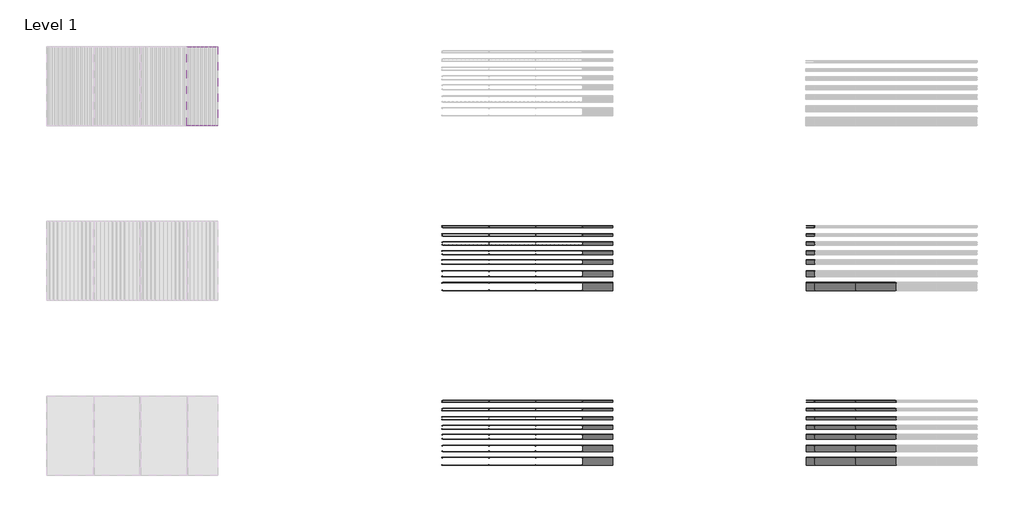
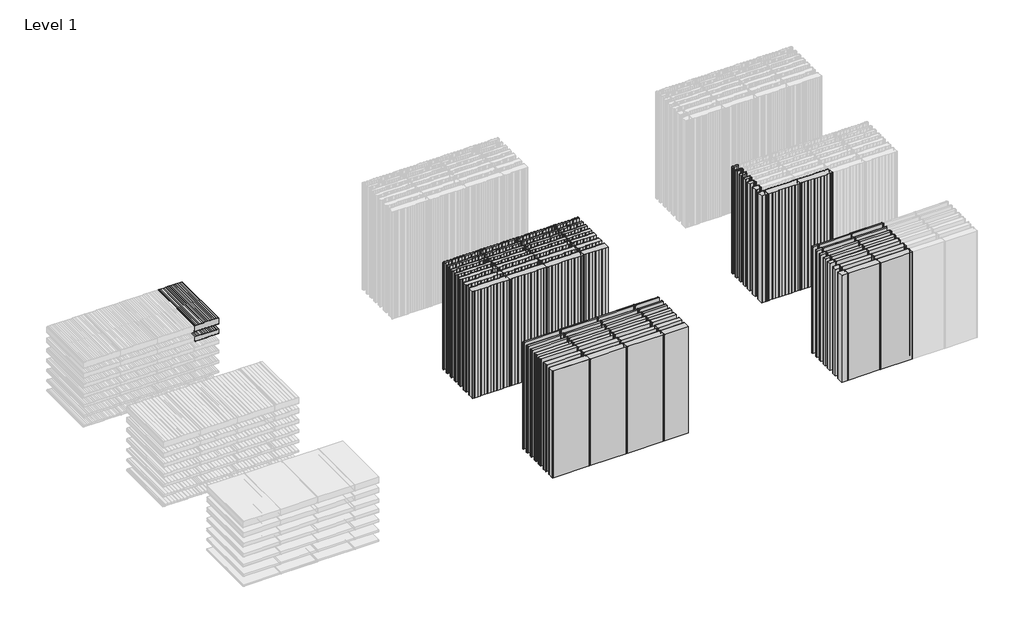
# One storey, part 2 of 4: 88 plates.
"""IFC4 building model written with IfcOpenShell, lengths in millimetres."""

from ifc_helpers import new_model, si_unit, origin, place, context, project, spatial, transform, mapped, element, save
from components import plate_aace55ae, plate_b0a39715, plate_3c703dab, plate_013f0e3a, plate_b8cf29e3, plate_9ff300b7, plate_237f9545, plate_3a178546, plate_fbef5924, plate_521b614f, plate_49ab79ae, plate_119ddfce, plate_efb13df9, plate_e0073b67, plate_bbc1dd99, plate_428cde19, plate_9ce57156, plate_27170c41, plate_c7bb6b2b, plate_6def71c2, plate_ae8438e2, plate_565afd56, plate_8dcfa809, plate_525450b6, plate_f34e5e84, plate_1d5e609f, plate_e44e9543, plate_76bfd1a1, plate_c045a3eb, plate_85a3d73c, plate_669abe36, pm1_curtain_panel_perfil_liso_ec2d9a9f, pm1_curtain_panel_perfil_liso_6bd34003, pm1_curtain_panel_perfil_liso_d00d88be, pm1_curtain_panel_perfil_liso_68c07352, pm1_curtain_panel_perfil_liso_7617cffb, pm1_curtain_panel_perfil_liso_af272a4a, pm1_curtain_panel_perfil_liso_9f0cf21e, pm1_curtain_panel_perfil_liso_2dd77cdb, pm1_curtain_panel_perfil_liso_1df6bcda, pm1_curtain_panel_perfil_liso_bbe97bc2, pm1_curtain_panel_perfil_liso_77e79c4d, pm1_curtain_panel_perfil_liso_9e77dd8b, pm1_curtain_panel_perfil_liso_ed04c103, pm1_curtain_panel_perfil_liso_f8a9f7f1, pmh_curtain_panel_perfil_liso_bc538edd, pmh_curtain_panel_perfil_liso_33157659, pmh_curtain_panel_perfil_liso_eaf717ca, pmh_curtain_panel_perfil_liso_81161288, pmh_curtain_panel_perfil_liso_2aa518ef, pmh_curtain_panel_perfil_liso_ee175231, pmh_curtain_panel_perfil_liso_a8378464, pmh_curtain_panel_perfil_liso_6f3a8c2d, pmh_curtain_panel_perfil_liso_d1ff0061, pmh_curtain_panel_perfil_liso_4aeccdc1, pmh_curtain_panel_perfil_liso_b9f61fe7, pmh_curtain_panel_perfil_liso_04d264a5, pmh_curtain_panel_perfil_liso_7e397283, pmh_curtain_panel_perfil_liso_27409d0f

model = new_model("IFC4")

# Units and contexts
model_context = context("Model", 3, world=origin())
ifc_project = project(units=[si_unit("LENGTHUNIT", "METRE", prefix="MILLI")], contexts=[model_context])

# Site, building, storey
site = spatial("IfcSite", under=ifc_project)
building = spatial("IfcBuilding", under=site)
storey = spatial("IfcBuildingStorey", under=building, Name="Level 1", Elevation=0.0)

# Plates
placement = place(None, origin())
plate_shape = plate_aace55ae(model_context)
plate_2_shape = plate_b0a39715(model_context)
element("IfcPlate", 1, ObjectType="PM1_Curtain-Panel_Perfil-Frigorífico : ACH_PM1_Panel-Acústico-Sectorización_60M", at=placement, inside=storey, context=model_context, shape_type="MappedRepresentation", body=[
    mapped(plate_shape, transform((-10729.4132588, -3079.3131879, 0.0), x_axis=(1.0, 0.0, 0.0), y_axis=(0.0, 1.0, 0.0), z_axis=(0.0, 0.0, 1.0))),
    mapped(plate_2_shape, transform((-10729.4132588, -3079.3131879, 0.0), x_axis=(1.0, 0.0, 0.0), y_axis=(0.0, 1.0, 0.0), z_axis=(0.0, 0.0, 1.0))),
])
element("IfcPlate", 2, ObjectType="PM1_Curtain-Panel_Perfil-Frigorífico : ACH_PM1_Panel-Acústico-Sectorización_60M", at=placement, inside=storey, context=model_context, shape_type="MappedRepresentation", body=[
    mapped(plate_shape, transform((-9579.4132588, -3079.3131879, 0.0), x_axis=(1.0, 0.0, 0.0), y_axis=(0.0, 1.0, 0.0), z_axis=(0.0, 0.0, 1.0))),
    mapped(plate_2_shape, transform((-9579.4132588, -3079.3131879, 0.0), x_axis=(1.0, 0.0, 0.0), y_axis=(0.0, 1.0, 0.0), z_axis=(0.0, 0.0, 1.0))),
])
element("IfcPlate", 3, ObjectType="PM1_Curtain-Panel_Perfil-Frigorífico : ACH_PM1_Panel-Acústico-Sectorización_60M", at=placement, inside=storey, context=model_context, shape_type="MappedRepresentation", body=[
    mapped(plate_shape, transform((-8429.4132588, -3079.3131879, 0.0), x_axis=(1.0, 0.0, 0.0), y_axis=(0.0, 1.0, 0.0), z_axis=(0.0, 0.0, 1.0))),
    mapped(plate_2_shape, transform((-8429.4132588, -3079.3131879, 0.0), x_axis=(1.0, 0.0, 0.0), y_axis=(0.0, 1.0, 0.0), z_axis=(0.0, 0.0, 1.0))),
])
plate_3_shape = plate_3c703dab(model_context)
element("IfcPlate", 4, ObjectType="PM1_Curtain-Panel_Perfil-Frigorífico : ACH_PM1_Panel-Acústico-Sectorización_60M", at=placement, inside=storey, context=model_context, shape_type="MappedRepresentation", body=[
    mapped(plate_3_shape, transform((-7479.4132588, -3079.3131879, 0.0), x_axis=(1.0, 0.0, 0.0), y_axis=(0.0, 1.0, 0.0), z_axis=(0.0, 0.0, 1.0))),
])
plate_4_shape = plate_013f0e3a(model_context)
plate_5_shape = plate_b8cf29e3(model_context)
element("IfcPlate", 5, ObjectType="PM1_Curtain-Panel_Perfil-Frigorífico : ACH_PM1_Panel-Acústico-Sectorización_80M", at=placement, inside=storey, context=model_context, shape_type="MappedRepresentation", body=[
    mapped(plate_4_shape, transform((-10729.4132588, -3279.3131879, 0.0), x_axis=(1.0, 0.0, 0.0), y_axis=(0.0, 1.0, 0.0), z_axis=(0.0, 0.0, 1.0))),
    mapped(plate_5_shape, transform((-10729.4132588, -3279.3131879, 0.0), x_axis=(1.0, 0.0, 0.0), y_axis=(0.0, 1.0, 0.0), z_axis=(0.0, 0.0, 1.0))),
])
element("IfcPlate", 6, ObjectType="PM1_Curtain-Panel_Perfil-Frigorífico : ACH_PM1_Panel-Acústico-Sectorización_80M", at=placement, inside=storey, context=model_context, shape_type="MappedRepresentation", body=[
    mapped(plate_4_shape, transform((-9579.4132588, -3279.3131879, 0.0), x_axis=(1.0, 0.0, 0.0), y_axis=(0.0, 1.0, 0.0), z_axis=(0.0, 0.0, 1.0))),
    mapped(plate_5_shape, transform((-9579.4132588, -3279.3131879, 0.0), x_axis=(1.0, 0.0, 0.0), y_axis=(0.0, 1.0, 0.0), z_axis=(0.0, 0.0, 1.0))),
])
element("IfcPlate", 7, ObjectType="PM1_Curtain-Panel_Perfil-Frigorífico : ACH_PM1_Panel-Acústico-Sectorización_80M", at=placement, inside=storey, context=model_context, shape_type="MappedRepresentation", body=[
    mapped(plate_4_shape, transform((-8429.4132588, -3279.3131879, 0.0), x_axis=(1.0, 0.0, 0.0), y_axis=(0.0, 1.0, 0.0), z_axis=(0.0, 0.0, 1.0))),
    mapped(plate_5_shape, transform((-8429.4132588, -3279.3131879, 0.0), x_axis=(1.0, 0.0, 0.0), y_axis=(0.0, 1.0, 0.0), z_axis=(0.0, 0.0, 1.0))),
])
plate_6_shape = plate_9ff300b7(model_context)
element("IfcPlate", 8, ObjectType="PM1_Curtain-Panel_Perfil-Frigorífico : ACH_PM1_Panel-Acústico-Sectorización_80M", at=placement, inside=storey, context=model_context, shape_type="MappedRepresentation", body=[
    mapped(plate_6_shape, transform((-7479.4132588, -3279.3131879, 0.0), x_axis=(1.0, 0.0, 0.0), y_axis=(0.0, 1.0, 0.0), z_axis=(0.0, 0.0, 1.0))),
])
plate_7_shape = plate_237f9545(model_context)
plate_8_shape = plate_3a178546(model_context)
element("IfcPlate", 9, ObjectType="PM1_Curtain-Panel_Perfil-Frigorífico : ACH_PM1_Panel-Acústico-Sectorización_50M", at=placement, inside=storey, context=model_context, shape_type="MappedRepresentation", body=[
    mapped(plate_7_shape, transform((-10729.4132588, -2879.3131879, 0.0), x_axis=(1.0, 0.0, 0.0), y_axis=(0.0, 1.0, 0.0), z_axis=(0.0, 0.0, 1.0))),
    mapped(plate_8_shape, transform((-10729.4132588, -2879.3131879, 0.0), x_axis=(1.0, 0.0, 0.0), y_axis=(0.0, 1.0, 0.0), z_axis=(0.0, 0.0, 1.0))),
])
element("IfcPlate", 10, ObjectType="PM1_Curtain-Panel_Perfil-Frigorífico : ACH_PM1_Panel-Acústico-Sectorización_50M", at=placement, inside=storey, context=model_context, shape_type="MappedRepresentation", body=[
    mapped(plate_7_shape, transform((-9579.4132588, -2879.3131879, 0.0), x_axis=(1.0, 0.0, 0.0), y_axis=(0.0, 1.0, 0.0), z_axis=(0.0, 0.0, 1.0))),
    mapped(plate_8_shape, transform((-9579.4132588, -2879.3131879, 0.0), x_axis=(1.0, 0.0, 0.0), y_axis=(0.0, 1.0, 0.0), z_axis=(0.0, 0.0, 1.0))),
])
element("IfcPlate", 11, ObjectType="PM1_Curtain-Panel_Perfil-Frigorífico : ACH_PM1_Panel-Acústico-Sectorización_50M", at=placement, inside=storey, context=model_context, shape_type="MappedRepresentation", body=[
    mapped(plate_7_shape, transform((-8429.4132588, -2879.3131879, 0.0), x_axis=(1.0, 0.0, 0.0), y_axis=(0.0, 1.0, 0.0), z_axis=(0.0, 0.0, 1.0))),
    mapped(plate_8_shape, transform((-8429.4132588, -2879.3131879, 0.0), x_axis=(1.0, 0.0, 0.0), y_axis=(0.0, 1.0, 0.0), z_axis=(0.0, 0.0, 1.0))),
])
plate_9_shape = plate_fbef5924(model_context)
element("IfcPlate", 12, ObjectType="PM1_Curtain-Panel_Perfil-Frigorífico : ACH_PM1_Panel-Acústico-Sectorización_50M", at=placement, inside=storey, context=model_context, shape_type="MappedRepresentation", body=[
    mapped(plate_9_shape, transform((-7479.4012848, -2879.3131879, 0.0), x_axis=(1.0, 0.0, 0.0), y_axis=(0.0, 1.0, 0.0), z_axis=(0.0, 0.0, 1.0))),
])
plate_10_shape = plate_521b614f(model_context)
plate_11_shape = plate_49ab79ae(model_context)
element("IfcPlate", 13, ObjectType="PM1_Curtain-Panel_Perfil-Frigorífico : ACH_PM1_Panel-Acústico-Sectorización_100M", at=placement, inside=storey, context=model_context, shape_type="MappedRepresentation", body=[
    mapped(plate_10_shape, transform((-10729.4132588, -3495.1131879, 0.0), x_axis=(1.0, 0.0, 0.0), y_axis=(0.0, 1.0, 0.0), z_axis=(0.0, 0.0, 1.0))),
    mapped(plate_11_shape, transform((-10729.4132588, -3495.1131879, 0.0), x_axis=(1.0, 0.0, 0.0), y_axis=(0.0, 1.0, 0.0), z_axis=(0.0, 0.0, 1.0))),
])
element("IfcPlate", 14, ObjectType="PM1_Curtain-Panel_Perfil-Frigorífico : ACH_PM1_Panel-Acústico-Sectorización_100M", at=placement, inside=storey, context=model_context, shape_type="MappedRepresentation", body=[
    mapped(plate_10_shape, transform((-9579.4132588, -3495.1131879, 0.0), x_axis=(1.0, 0.0, 0.0), y_axis=(0.0, 1.0, 0.0), z_axis=(0.0, 0.0, 1.0))),
    mapped(plate_11_shape, transform((-9579.4132588, -3495.1131879, 0.0), x_axis=(1.0, 0.0, 0.0), y_axis=(0.0, 1.0, 0.0), z_axis=(0.0, 0.0, 1.0))),
])
element("IfcPlate", 15, ObjectType="PM1_Curtain-Panel_Perfil-Frigorífico : ACH_PM1_Panel-Acústico-Sectorización_100M", at=placement, inside=storey, context=model_context, shape_type="MappedRepresentation", body=[
    mapped(plate_10_shape, transform((-8429.4132588, -3495.1131879, 0.0), x_axis=(1.0, 0.0, 0.0), y_axis=(0.0, 1.0, 0.0), z_axis=(0.0, 0.0, 1.0))),
    mapped(plate_11_shape, transform((-8429.4132588, -3495.1131879, 0.0), x_axis=(1.0, 0.0, 0.0), y_axis=(0.0, 1.0, 0.0), z_axis=(0.0, 0.0, 1.0))),
])
plate_12_shape = plate_119ddfce(model_context)
element("IfcPlate", 16, ObjectType="PM1_Curtain-Panel_Perfil-Frigorífico : ACH_PM1_Panel-Acústico-Sectorización_100M", at=placement, inside=storey, context=model_context, shape_type="MappedRepresentation", body=[
    mapped(plate_12_shape, transform((-7479.4132588, -3495.1131879, 0.0), x_axis=(1.0, 0.0, 0.0), y_axis=(0.0, 1.0, 0.0), z_axis=(0.0, 0.0, 1.0))),
])
plate_13_shape = plate_efb13df9(model_context)
plate_14_shape = plate_e0073b67(model_context)
element("IfcPlate", 17, ObjectType="PM1_Curtain-Panel_Perfil-Frigorífico : ACH_PM1_Panel-Acústico-Sectorización_120M", at=placement, inside=storey, context=model_context, shape_type="MappedRepresentation", body=[
    mapped(plate_13_shape, transform((-10729.4132588, -3715.1131879, 0.0), x_axis=(1.0, 0.0, 0.0), y_axis=(0.0, 1.0, 0.0), z_axis=(0.0, 0.0, 1.0))),
    mapped(plate_14_shape, transform((-10729.4132588, -3715.1131879, 0.0), x_axis=(1.0, 0.0, 0.0), y_axis=(0.0, 1.0, 0.0), z_axis=(0.0, 0.0, 1.0))),
])
element("IfcPlate", 18, ObjectType="PM1_Curtain-Panel_Perfil-Frigorífico : ACH_PM1_Panel-Acústico-Sectorización_120M", at=placement, inside=storey, context=model_context, shape_type="MappedRepresentation", body=[
    mapped(plate_13_shape, transform((-9579.4132588, -3715.1131879, 0.0), x_axis=(1.0, 0.0, 0.0), y_axis=(0.0, 1.0, 0.0), z_axis=(0.0, 0.0, 1.0))),
    mapped(plate_14_shape, transform((-9579.4132588, -3715.1131879, 0.0), x_axis=(1.0, 0.0, 0.0), y_axis=(0.0, 1.0, 0.0), z_axis=(0.0, 0.0, 1.0))),
])
element("IfcPlate", 19, ObjectType="PM1_Curtain-Panel_Perfil-Frigorífico : ACH_PM1_Panel-Acústico-Sectorización_120M", at=placement, inside=storey, context=model_context, shape_type="MappedRepresentation", body=[
    mapped(plate_13_shape, transform((-8429.4132588, -3715.1131879, 0.0), x_axis=(1.0, 0.0, 0.0), y_axis=(0.0, 1.0, 0.0), z_axis=(0.0, 0.0, 1.0))),
    mapped(plate_14_shape, transform((-8429.4132588, -3715.1131879, 0.0), x_axis=(1.0, 0.0, 0.0), y_axis=(0.0, 1.0, 0.0), z_axis=(0.0, 0.0, 1.0))),
])
plate_15_shape = plate_bbc1dd99(model_context)
element("IfcPlate", 20, ObjectType="PM1_Curtain-Panel_Perfil-Frigorífico : ACH_PM1_Panel-Acústico-Sectorización_120M", at=placement, inside=storey, context=model_context, shape_type="MappedRepresentation", body=[
    mapped(plate_15_shape, transform((-7479.4132588, -3715.1131879, 0.0), x_axis=(1.0, 0.0, 0.0), y_axis=(0.0, 1.0, 0.0), z_axis=(0.0, 0.0, 1.0))),
])
plate_16_shape = plate_428cde19(model_context)
plate_17_shape = plate_9ce57156(model_context)
element("IfcPlate", 21, ObjectType="PM1_Curtain-Panel_Perfil-Frigorífico : ACH_PM1_Panel-Acústico-Sectorización_150M", at=placement, inside=storey, context=model_context, shape_type="MappedRepresentation", body=[
    mapped(plate_16_shape, transform((-10729.4132588, -3990.1131879, 0.0), x_axis=(1.0, 0.0, 0.0), y_axis=(0.0, 1.0, 0.0), z_axis=(0.0, 0.0, 1.0))),
    mapped(plate_17_shape, transform((-10729.4132588, -3990.1131879, 0.0), x_axis=(1.0, 0.0, 0.0), y_axis=(0.0, 1.0, 0.0), z_axis=(0.0, 0.0, 1.0))),
])
element("IfcPlate", 22, ObjectType="PM1_Curtain-Panel_Perfil-Frigorífico : ACH_PM1_Panel-Acústico-Sectorización_150M", at=placement, inside=storey, context=model_context, shape_type="MappedRepresentation", body=[
    mapped(plate_16_shape, transform((-9579.4132588, -3990.1131879, 0.0), x_axis=(1.0, 0.0, 0.0), y_axis=(0.0, 1.0, 0.0), z_axis=(0.0, 0.0, 1.0))),
    mapped(plate_17_shape, transform((-9579.4132588, -3990.1131879, 0.0), x_axis=(1.0, 0.0, 0.0), y_axis=(0.0, 1.0, 0.0), z_axis=(0.0, 0.0, 1.0))),
])
element("IfcPlate", 23, ObjectType="PM1_Curtain-Panel_Perfil-Frigorífico : ACH_PM1_Panel-Acústico-Sectorización_150M", at=placement, inside=storey, context=model_context, shape_type="MappedRepresentation", body=[
    mapped(plate_16_shape, transform((-8429.4132588, -3990.1131879, 0.0), x_axis=(1.0, 0.0, 0.0), y_axis=(0.0, 1.0, 0.0), z_axis=(0.0, 0.0, 1.0))),
    mapped(plate_17_shape, transform((-8429.4132588, -3990.1131879, 0.0), x_axis=(1.0, 0.0, 0.0), y_axis=(0.0, 1.0, 0.0), z_axis=(0.0, 0.0, 1.0))),
])
plate_18_shape = plate_27170c41(model_context)
element("IfcPlate", 24, ObjectType="PM1_Curtain-Panel_Perfil-Frigorífico : ACH_PM1_Panel-Acústico-Sectorización_150M", at=placement, inside=storey, context=model_context, shape_type="MappedRepresentation", body=[
    mapped(plate_18_shape, transform((-7479.4132588, -3990.1131879, 0.0), x_axis=(1.0, 0.0, 0.0), y_axis=(0.0, 1.0, 0.0), z_axis=(0.0, 0.0, 1.0))),
])
plate_19_shape = plate_c7bb6b2b(model_context)
plate_20_shape = plate_6def71c2(model_context)
element("IfcPlate", 25, ObjectType="PM1_Curtain-Panel_Perfil-Frigorífico : ACH_PM1_Panel-Acústico-Sectorización_200M", at=placement, inside=storey, context=model_context, shape_type="MappedRepresentation", body=[
    mapped(plate_19_shape, transform((-10729.4132588, -4280.1131879, 0.0), x_axis=(1.0, 0.0, 0.0), y_axis=(0.0, 1.0, 0.0), z_axis=(0.0, 0.0, 1.0))),
    mapped(plate_20_shape, transform((-10729.4132588, -4280.1131879, 0.0), x_axis=(1.0, 0.0, 0.0), y_axis=(0.0, 1.0, 0.0), z_axis=(0.0, 0.0, 1.0))),
])
element("IfcPlate", 26, ObjectType="PM1_Curtain-Panel_Perfil-Frigorífico : ACH_PM1_Panel-Acústico-Sectorización_200M", at=placement, inside=storey, context=model_context, shape_type="MappedRepresentation", body=[
    mapped(plate_19_shape, transform((-9579.4132588, -4280.1131879, 0.0), x_axis=(1.0, 0.0, 0.0), y_axis=(0.0, 1.0, 0.0), z_axis=(0.0, 0.0, 1.0))),
    mapped(plate_20_shape, transform((-9579.4132588, -4280.1131879, 0.0), x_axis=(1.0, 0.0, 0.0), y_axis=(0.0, 1.0, 0.0), z_axis=(0.0, 0.0, 1.0))),
])
element("IfcPlate", 27, ObjectType="PM1_Curtain-Panel_Perfil-Frigorífico : ACH_PM1_Panel-Acústico-Sectorización_200M", at=placement, inside=storey, context=model_context, shape_type="MappedRepresentation", body=[
    mapped(plate_19_shape, transform((-8429.4132588, -4280.1131879, 0.0), x_axis=(1.0, 0.0, 0.0), y_axis=(0.0, 1.0, 0.0), z_axis=(0.0, 0.0, 1.0))),
    mapped(plate_20_shape, transform((-8429.4132588, -4280.1131879, 0.0), x_axis=(1.0, 0.0, 0.0), y_axis=(0.0, 1.0, 0.0), z_axis=(0.0, 0.0, 1.0))),
])
plate_21_shape = plate_ae8438e2(model_context)
element("IfcPlate", 28, ObjectType="PM1_Curtain-Panel_Perfil-Frigorífico : ACH_PM1_Panel-Acústico-Sectorización_200M", at=placement, inside=storey, context=model_context, shape_type="MappedRepresentation", body=[
    mapped(plate_21_shape, transform((-7479.4132588, -4280.1131879, 0.0), x_axis=(1.0, 0.0, 0.0), y_axis=(0.0, 1.0, 0.0), z_axis=(0.0, 0.0, 1.0))),
])
plate_22_shape = plate_565afd56(model_context)
element("IfcPlate", 29, ObjectType="PM1_Curtain-Panel_Perfil-Estándar : ACH_PM1_Panel-Acústico-Sectorización_150M", at=placement, inside=storey, context=model_context, shape_type="MappedRepresentation", body=[
    mapped(plate_22_shape, transform((-17207.9244272, -419.7144508, 1600.0), x_axis=(1.0, 0.0, 0.0), y_axis=(0.0, 0.0, -1.0), z_axis=(0.0, 1.0, 0.0))),
])
plate_23_shape = plate_8dcfa809(model_context)
element("IfcPlate", 30, ObjectType="PM1_Curtain-Panel_Perfil-Estándar : ACH_PM1_Panel-Acústico-Sectorización_200M", at=placement, inside=storey, context=model_context, shape_type="MappedRepresentation", body=[
    mapped(plate_23_shape, transform((-17207.9244272, -419.7144508, 1920.0), x_axis=(1.0, 0.0, 0.0), y_axis=(0.0, 0.0, -1.0), z_axis=(0.0, 1.0, 0.0))),
])
plate_24_shape = plate_525450b6(model_context)
element("IfcPlate", 31, ObjectType="PMH_Curtain-Panel_Perfil-Frigorífico : ACH_PMH_Panel-Acústico-Sectorización_60M", at=placement, inside=storey, context=model_context, shape_type="MappedRepresentation", body=[
    mapped(plate_24_shape, transform((-2246.0567046, -3079.3131879, 0.0), x_axis=(-1.0, 0.0, 0.0), y_axis=(0.0, -1.0, 0.0), z_axis=(0.0, 0.0, 1.0))),
])
plate_25_shape = plate_f34e5e84(model_context)
element("IfcPlate", 32, ObjectType="PMH_Curtain-Panel_Perfil-Frigorífico : ACH_PMH_Panel-Acústico-Sectorización_80M", at=placement, inside=storey, context=model_context, shape_type="MappedRepresentation", body=[
    mapped(plate_25_shape, transform((-2246.0567046, -3279.3131879, 0.0), x_axis=(-1.0, 0.0, 0.0), y_axis=(0.0, -1.0, 0.0), z_axis=(0.0, 0.0, 1.0))),
])
plate_26_shape = plate_1d5e609f(model_context)
element("IfcPlate", 33, ObjectType="PMH_Curtain-Panel_Perfil-Frigorífico : ACH_PMH_Panel-Acústico-Sectorización_50M", at=placement, inside=storey, context=model_context, shape_type="MappedRepresentation", body=[
    mapped(plate_26_shape, transform((-2246.0686785, -2879.3131879, 0.0), x_axis=(-1.0, 0.0, 0.0), y_axis=(0.0, -1.0, 0.0), z_axis=(0.0, 0.0, 1.0))),
])
plate_27_shape = plate_e44e9543(model_context)
element("IfcPlate", 34, ObjectType="PMH_Curtain-Panel_Perfil-Frigorífico : ACH_PMH_Panel-Acústico-Sectorización_100M", at=placement, inside=storey, context=model_context, shape_type="MappedRepresentation", body=[
    mapped(plate_27_shape, transform((-2246.0567046, -3495.1131879, 0.0), x_axis=(-1.0, 0.0, 0.0), y_axis=(0.0, -1.0, 0.0), z_axis=(0.0, 0.0, 1.0))),
])
plate_28_shape = plate_76bfd1a1(model_context)
element("IfcPlate", 35, ObjectType="PMH_Curtain-Panel_Perfil-Frigorífico : ACH_PMH_Panel-Acústico-Sectorización_120M", at=placement, inside=storey, context=model_context, shape_type="MappedRepresentation", body=[
    mapped(plate_28_shape, transform((-2246.0567046, -3715.1131879, 0.0), x_axis=(-1.0, 0.0, 0.0), y_axis=(0.0, -1.0, 0.0), z_axis=(0.0, 0.0, 1.0))),
])
plate_29_shape = plate_c045a3eb(model_context)
element("IfcPlate", 36, ObjectType="PMH_Curtain-Panel_Perfil-Frigorífico : ACH_PMH_Panel-Acústico-Sectorización_150M", at=placement, inside=storey, context=model_context, shape_type="MappedRepresentation", body=[
    mapped(plate_29_shape, transform((-2246.0567046, -3990.1131879, 0.0), x_axis=(-1.0, 0.0, 0.0), y_axis=(0.0, -1.0, 0.0), z_axis=(0.0, 0.0, 1.0))),
])
plate_30_shape = plate_85a3d73c(model_context)
element("IfcPlate", 37, ObjectType="PMH_Curtain-Panel_Perfil-Frigorífico : ACH_PMH_Panel-Acústico-Sectorización_200M", at=placement, inside=storey, context=model_context, shape_type="MappedRepresentation", body=[
    mapped(plate_30_shape, transform((-646.0567046, -4280.1131879, 0.0), x_axis=(-1.0, 0.0, 0.0), y_axis=(0.0, -1.0, 0.0), z_axis=(0.0, 0.0, 1.0))),
])
element("IfcPlate", 38, ObjectType="PMH_Curtain-Panel_Perfil-Frigorífico : ACH_PMH_Panel-Acústico-Sectorización_200M", at=placement, inside=storey, context=model_context, shape_type="MappedRepresentation", body=[
    mapped(plate_30_shape, transform((-1646.0567046, -4280.1131879, 0.0), x_axis=(-1.0, 0.0, 0.0), y_axis=(0.0, -1.0, 0.0), z_axis=(0.0, 0.0, 1.0))),
])
plate_31_shape = plate_669abe36(model_context)
element("IfcPlate", 39, ObjectType="PMH_Curtain-Panel_Perfil-Frigorífico : ACH_PMH_Panel-Acústico-Sectorización_200M", at=placement, inside=storey, context=model_context, shape_type="MappedRepresentation", body=[
    mapped(plate_31_shape, transform((-2246.0567046, -4280.1131879, 0.0), x_axis=(-1.0, 0.0, 0.0), y_axis=(0.0, -1.0, 0.0), z_axis=(0.0, 0.0, 1.0))),
])
pm1_curtain_panel_perfil_liso_shape = pm1_curtain_panel_perfil_liso_ec2d9a9f(model_context)
element("IfcPlate", 40, ObjectType="PM1_Curtain-Panel_Perfil-Liso : ACH_PM1_Panel-Acústico-Sectorización_60M", at=placement, inside=storey, context=model_context, shape_type="MappedRepresentation", body=[
    mapped(pm1_curtain_panel_perfil_liso_shape, transform((-10729.4132588, -7379.3131879, 0.0), x_axis=(1.0, 0.0, 0.0), y_axis=(0.0, 1.0, 0.0), z_axis=(0.0, 0.0, 1.0))),
])
element("IfcPlate", 41, ObjectType="PM1_Curtain-Panel_Perfil-Liso : ACH_PM1_Panel-Acústico-Sectorización_60M", at=placement, inside=storey, context=model_context, shape_type="MappedRepresentation", body=[
    mapped(pm1_curtain_panel_perfil_liso_shape, transform((-9579.4132588, -7379.3131879, 0.0), x_axis=(1.0, 0.0, 0.0), y_axis=(0.0, 1.0, 0.0), z_axis=(0.0, 0.0, 1.0))),
])
element("IfcPlate", 42, ObjectType="PM1_Curtain-Panel_Perfil-Liso : ACH_PM1_Panel-Acústico-Sectorización_60M", at=placement, inside=storey, context=model_context, shape_type="MappedRepresentation", body=[
    mapped(pm1_curtain_panel_perfil_liso_shape, transform((-8429.4132588, -7379.3131879, 0.0), x_axis=(1.0, 0.0, 0.0), y_axis=(0.0, 1.0, 0.0), z_axis=(0.0, 0.0, 1.0))),
])
pm1_curtain_panel_perfil_liso_2_shape = pm1_curtain_panel_perfil_liso_6bd34003(model_context)
element("IfcPlate", 43, ObjectType="PM1_Curtain-Panel_Perfil-Liso : ACH_PM1_Panel-Acústico-Sectorización_60M", at=placement, inside=storey, context=model_context, shape_type="MappedRepresentation", body=[
    mapped(pm1_curtain_panel_perfil_liso_2_shape, transform((-7479.4132588, -7379.3131879, 0.0), x_axis=(1.0, 0.0, 0.0), y_axis=(0.0, 1.0, 0.0), z_axis=(0.0, 0.0, 1.0))),
])
pm1_curtain_panel_perfil_liso_3_shape = pm1_curtain_panel_perfil_liso_d00d88be(model_context)
element("IfcPlate", 44, ObjectType="PM1_Curtain-Panel_Perfil-Liso : ACH_PM1_Panel-Acústico-Sectorización_80M", at=placement, inside=storey, context=model_context, shape_type="MappedRepresentation", body=[
    mapped(pm1_curtain_panel_perfil_liso_3_shape, transform((-10729.4132588, -7579.3131879, 0.0), x_axis=(1.0, 0.0, 0.0), y_axis=(0.0, 1.0, 0.0), z_axis=(0.0, 0.0, 1.0))),
])
element("IfcPlate", 45, ObjectType="PM1_Curtain-Panel_Perfil-Liso : ACH_PM1_Panel-Acústico-Sectorización_80M", at=placement, inside=storey, context=model_context, shape_type="MappedRepresentation", body=[
    mapped(pm1_curtain_panel_perfil_liso_3_shape, transform((-9579.4132588, -7579.3131879, 0.0), x_axis=(1.0, 0.0, 0.0), y_axis=(0.0, 1.0, 0.0), z_axis=(0.0, 0.0, 1.0))),
])
element("IfcPlate", 46, ObjectType="PM1_Curtain-Panel_Perfil-Liso : ACH_PM1_Panel-Acústico-Sectorización_80M", at=placement, inside=storey, context=model_context, shape_type="MappedRepresentation", body=[
    mapped(pm1_curtain_panel_perfil_liso_3_shape, transform((-8429.4132588, -7579.3131879, 0.0), x_axis=(1.0, 0.0, 0.0), y_axis=(0.0, 1.0, 0.0), z_axis=(0.0, 0.0, 1.0))),
])
pm1_curtain_panel_perfil_liso_4_shape = pm1_curtain_panel_perfil_liso_68c07352(model_context)
element("IfcPlate", 47, ObjectType="PM1_Curtain-Panel_Perfil-Liso : ACH_PM1_Panel-Acústico-Sectorización_80M", at=placement, inside=storey, context=model_context, shape_type="MappedRepresentation", body=[
    mapped(pm1_curtain_panel_perfil_liso_4_shape, transform((-7479.4132588, -7579.3131879, 0.0), x_axis=(1.0, 0.0, 0.0), y_axis=(0.0, 1.0, 0.0), z_axis=(0.0, 0.0, 1.0))),
])
pm1_curtain_panel_perfil_liso_5_shape = pm1_curtain_panel_perfil_liso_7617cffb(model_context)
element("IfcPlate", 48, ObjectType="PM1_Curtain-Panel_Perfil-Liso : ACH_PM1_Panel-Acústico-Sectorización_50M", at=placement, inside=storey, context=model_context, shape_type="MappedRepresentation", body=[
    mapped(pm1_curtain_panel_perfil_liso_5_shape, transform((-10729.4132588, -7179.3131879, 0.0), x_axis=(1.0, 0.0, 0.0), y_axis=(0.0, 1.0, 0.0), z_axis=(0.0, 0.0, 1.0))),
])
element("IfcPlate", 49, ObjectType="PM1_Curtain-Panel_Perfil-Liso : ACH_PM1_Panel-Acústico-Sectorización_50M", at=placement, inside=storey, context=model_context, shape_type="MappedRepresentation", body=[
    mapped(pm1_curtain_panel_perfil_liso_5_shape, transform((-9579.4132588, -7179.3131879, 0.0), x_axis=(1.0, 0.0, 0.0), y_axis=(0.0, 1.0, 0.0), z_axis=(0.0, 0.0, 1.0))),
])
element("IfcPlate", 50, ObjectType="PM1_Curtain-Panel_Perfil-Liso : ACH_PM1_Panel-Acústico-Sectorización_50M", at=placement, inside=storey, context=model_context, shape_type="MappedRepresentation", body=[
    mapped(pm1_curtain_panel_perfil_liso_5_shape, transform((-8429.4132588, -7179.3131879, 0.0), x_axis=(1.0, 0.0, 0.0), y_axis=(0.0, 1.0, 0.0), z_axis=(0.0, 0.0, 1.0))),
])
pm1_curtain_panel_perfil_liso_6_shape = pm1_curtain_panel_perfil_liso_af272a4a(model_context)
element("IfcPlate", 51, ObjectType="PM1_Curtain-Panel_Perfil-Liso : ACH_PM1_Panel-Acústico-Sectorización_50M", at=placement, inside=storey, context=model_context, shape_type="MappedRepresentation", body=[
    mapped(pm1_curtain_panel_perfil_liso_6_shape, transform((-7479.4012848, -7179.3131879, 0.0), x_axis=(1.0, 0.0, 0.0), y_axis=(0.0, 1.0, 0.0), z_axis=(0.0, 0.0, 1.0))),
])
pm1_curtain_panel_perfil_liso_7_shape = pm1_curtain_panel_perfil_liso_9f0cf21e(model_context)
element("IfcPlate", 52, ObjectType="PM1_Curtain-Panel_Perfil-Liso : ACH_PM1_Panel-Acústico-Sectorización_100M", at=placement, inside=storey, context=model_context, shape_type="MappedRepresentation", body=[
    mapped(pm1_curtain_panel_perfil_liso_7_shape, transform((-10729.4132588, -7795.1131879, 0.0), x_axis=(1.0, 0.0, 0.0), y_axis=(0.0, 1.0, 0.0), z_axis=(0.0, 0.0, 1.0))),
])
element("IfcPlate", 53, ObjectType="PM1_Curtain-Panel_Perfil-Liso : ACH_PM1_Panel-Acústico-Sectorización_100M", at=placement, inside=storey, context=model_context, shape_type="MappedRepresentation", body=[
    mapped(pm1_curtain_panel_perfil_liso_7_shape, transform((-9579.4132588, -7795.1131879, 0.0), x_axis=(1.0, 0.0, 0.0), y_axis=(0.0, 1.0, 0.0), z_axis=(0.0, 0.0, 1.0))),
])
element("IfcPlate", 54, ObjectType="PM1_Curtain-Panel_Perfil-Liso : ACH_PM1_Panel-Acústico-Sectorización_100M", at=placement, inside=storey, context=model_context, shape_type="MappedRepresentation", body=[
    mapped(pm1_curtain_panel_perfil_liso_7_shape, transform((-8429.4132588, -7795.1131879, 0.0), x_axis=(1.0, 0.0, 0.0), y_axis=(0.0, 1.0, 0.0), z_axis=(0.0, 0.0, 1.0))),
])
pm1_curtain_panel_perfil_liso_8_shape = pm1_curtain_panel_perfil_liso_2dd77cdb(model_context)
element("IfcPlate", 55, ObjectType="PM1_Curtain-Panel_Perfil-Liso : ACH_PM1_Panel-Acústico-Sectorización_100M", at=placement, inside=storey, context=model_context, shape_type="MappedRepresentation", body=[
    mapped(pm1_curtain_panel_perfil_liso_8_shape, transform((-7479.4132588, -7795.1131879, 0.0), x_axis=(1.0, 0.0, 0.0), y_axis=(0.0, 1.0, 0.0), z_axis=(0.0, 0.0, 1.0))),
])
pm1_curtain_panel_perfil_liso_9_shape = pm1_curtain_panel_perfil_liso_1df6bcda(model_context)
element("IfcPlate", 56, ObjectType="PM1_Curtain-Panel_Perfil-Liso : ACH_PM1_Panel-Acústico-Sectorización_120M", at=placement, inside=storey, context=model_context, shape_type="MappedRepresentation", body=[
    mapped(pm1_curtain_panel_perfil_liso_9_shape, transform((-10729.4132588, -8015.1131879, 0.0), x_axis=(1.0, 0.0, 0.0), y_axis=(0.0, 1.0, 0.0), z_axis=(0.0, 0.0, 1.0))),
])
element("IfcPlate", 57, ObjectType="PM1_Curtain-Panel_Perfil-Liso : ACH_PM1_Panel-Acústico-Sectorización_120M", at=placement, inside=storey, context=model_context, shape_type="MappedRepresentation", body=[
    mapped(pm1_curtain_panel_perfil_liso_9_shape, transform((-9579.4132588, -8015.1131879, 0.0), x_axis=(1.0, 0.0, 0.0), y_axis=(0.0, 1.0, 0.0), z_axis=(0.0, 0.0, 1.0))),
])
element("IfcPlate", 58, ObjectType="PM1_Curtain-Panel_Perfil-Liso : ACH_PM1_Panel-Acústico-Sectorización_120M", at=placement, inside=storey, context=model_context, shape_type="MappedRepresentation", body=[
    mapped(pm1_curtain_panel_perfil_liso_9_shape, transform((-8429.4132588, -8015.1131879, 0.0), x_axis=(1.0, 0.0, 0.0), y_axis=(0.0, 1.0, 0.0), z_axis=(0.0, 0.0, 1.0))),
])
pm1_curtain_panel_perfil_liso_10_shape = pm1_curtain_panel_perfil_liso_bbe97bc2(model_context)
element("IfcPlate", 59, ObjectType="PM1_Curtain-Panel_Perfil-Liso : ACH_PM1_Panel-Acústico-Sectorización_120M", at=placement, inside=storey, context=model_context, shape_type="MappedRepresentation", body=[
    mapped(pm1_curtain_panel_perfil_liso_10_shape, transform((-7479.4132588, -8015.1131879, 0.0), x_axis=(1.0, 0.0, 0.0), y_axis=(0.0, 1.0, 0.0), z_axis=(0.0, 0.0, 1.0))),
])
pm1_curtain_panel_perfil_liso_11_shape = pm1_curtain_panel_perfil_liso_77e79c4d(model_context)
element("IfcPlate", 60, ObjectType="PM1_Curtain-Panel_Perfil-Liso : ACH_PM1_Panel-Acústico-Sectorización_150M", at=placement, inside=storey, context=model_context, shape_type="MappedRepresentation", body=[
    mapped(pm1_curtain_panel_perfil_liso_11_shape, transform((-10729.4132588, -8290.1131879, 0.0), x_axis=(1.0, 0.0, 0.0), y_axis=(0.0, 1.0, 0.0), z_axis=(0.0, 0.0, 1.0))),
])
element("IfcPlate", 61, ObjectType="PM1_Curtain-Panel_Perfil-Liso : ACH_PM1_Panel-Acústico-Sectorización_150M", at=placement, inside=storey, context=model_context, shape_type="MappedRepresentation", body=[
    mapped(pm1_curtain_panel_perfil_liso_11_shape, transform((-9579.4132588, -8290.1131879, 0.0), x_axis=(1.0, 0.0, 0.0), y_axis=(0.0, 1.0, 0.0), z_axis=(0.0, 0.0, 1.0))),
])
element("IfcPlate", 62, ObjectType="PM1_Curtain-Panel_Perfil-Liso : ACH_PM1_Panel-Acústico-Sectorización_150M", at=placement, inside=storey, context=model_context, shape_type="MappedRepresentation", body=[
    mapped(pm1_curtain_panel_perfil_liso_11_shape, transform((-8429.4132588, -8290.1131879, 0.0), x_axis=(1.0, 0.0, 0.0), y_axis=(0.0, 1.0, 0.0), z_axis=(0.0, 0.0, 1.0))),
])
pm1_curtain_panel_perfil_liso_12_shape = pm1_curtain_panel_perfil_liso_9e77dd8b(model_context)
element("IfcPlate", 63, ObjectType="PM1_Curtain-Panel_Perfil-Liso : ACH_PM1_Panel-Acústico-Sectorización_150M", at=placement, inside=storey, context=model_context, shape_type="MappedRepresentation", body=[
    mapped(pm1_curtain_panel_perfil_liso_12_shape, transform((-7479.4132588, -8290.1131879, 0.0), x_axis=(1.0, 0.0, 0.0), y_axis=(0.0, 1.0, 0.0), z_axis=(0.0, 0.0, 1.0))),
])
pm1_curtain_panel_perfil_liso_13_shape = pm1_curtain_panel_perfil_liso_ed04c103(model_context)
element("IfcPlate", 64, ObjectType="PM1_Curtain-Panel_Perfil-Liso : ACH_PM1_Panel-Acústico-Sectorización_200M", at=placement, inside=storey, context=model_context, shape_type="MappedRepresentation", body=[
    mapped(pm1_curtain_panel_perfil_liso_13_shape, transform((-10729.4132588, -8580.1131879, 0.0), x_axis=(1.0, 0.0, 0.0), y_axis=(0.0, 1.0, 0.0), z_axis=(0.0, 0.0, 1.0))),
])
element("IfcPlate", 65, ObjectType="PM1_Curtain-Panel_Perfil-Liso : ACH_PM1_Panel-Acústico-Sectorización_200M", at=placement, inside=storey, context=model_context, shape_type="MappedRepresentation", body=[
    mapped(pm1_curtain_panel_perfil_liso_13_shape, transform((-9579.4132588, -8580.1131879, 0.0), x_axis=(1.0, 0.0, 0.0), y_axis=(0.0, 1.0, 0.0), z_axis=(0.0, 0.0, 1.0))),
])
element("IfcPlate", 66, ObjectType="PM1_Curtain-Panel_Perfil-Liso : ACH_PM1_Panel-Acústico-Sectorización_200M", at=placement, inside=storey, context=model_context, shape_type="MappedRepresentation", body=[
    mapped(pm1_curtain_panel_perfil_liso_13_shape, transform((-8429.4132588, -8580.1131879, 0.0), x_axis=(1.0, 0.0, 0.0), y_axis=(0.0, 1.0, 0.0), z_axis=(0.0, 0.0, 1.0))),
])
pm1_curtain_panel_perfil_liso_14_shape = pm1_curtain_panel_perfil_liso_f8a9f7f1(model_context)
element("IfcPlate", 67, ObjectType="PM1_Curtain-Panel_Perfil-Liso : ACH_PM1_Panel-Acústico-Sectorización_200M", at=placement, inside=storey, context=model_context, shape_type="MappedRepresentation", body=[
    mapped(pm1_curtain_panel_perfil_liso_14_shape, transform((-7479.4132588, -8580.1131879, 0.0), x_axis=(1.0, 0.0, 0.0), y_axis=(0.0, 1.0, 0.0), z_axis=(0.0, 0.0, 1.0))),
])
pmh_curtain_panel_perfil_liso_shape = pmh_curtain_panel_perfil_liso_bc538edd(model_context)
element("IfcPlate", 68, ObjectType="PMH_Curtain-Panel_Perfil-Liso : ACH_PMH_Panel-Acústico-Sectorización_60M", at=placement, inside=storey, context=model_context, shape_type="MappedRepresentation", body=[
    mapped(pmh_curtain_panel_perfil_liso_shape, transform((-646.0567046, -7379.3131879, 0.0), x_axis=(-1.0, 0.0, 0.0), y_axis=(0.0, -1.0, 0.0), z_axis=(0.0, 0.0, 1.0))),
])
element("IfcPlate", 69, ObjectType="PMH_Curtain-Panel_Perfil-Liso : ACH_PMH_Panel-Acústico-Sectorización_60M", at=placement, inside=storey, context=model_context, shape_type="MappedRepresentation", body=[
    mapped(pmh_curtain_panel_perfil_liso_shape, transform((-1646.0567046, -7379.3131879, 0.0), x_axis=(-1.0, 0.0, 0.0), y_axis=(0.0, -1.0, 0.0), z_axis=(0.0, 0.0, 1.0))),
])
pmh_curtain_panel_perfil_liso_2_shape = pmh_curtain_panel_perfil_liso_33157659(model_context)
element("IfcPlate", 70, ObjectType="PMH_Curtain-Panel_Perfil-Liso : ACH_PMH_Panel-Acústico-Sectorización_60M", at=placement, inside=storey, context=model_context, shape_type="MappedRepresentation", body=[
    mapped(pmh_curtain_panel_perfil_liso_2_shape, transform((-2246.0567046, -7379.3131879, 0.0), x_axis=(-1.0, 0.0, 0.0), y_axis=(0.0, -1.0, 0.0), z_axis=(0.0, 0.0, 1.0))),
])
pmh_curtain_panel_perfil_liso_3_shape = pmh_curtain_panel_perfil_liso_eaf717ca(model_context)
element("IfcPlate", 71, ObjectType="PMH_Curtain-Panel_Perfil-Liso : ACH_PMH_Panel-Acústico-Sectorización_80M", at=placement, inside=storey, context=model_context, shape_type="MappedRepresentation", body=[
    mapped(pmh_curtain_panel_perfil_liso_3_shape, transform((-646.0567046, -7579.3131879, 0.0), x_axis=(-1.0, 0.0, 0.0), y_axis=(0.0, -1.0, 0.0), z_axis=(0.0, 0.0, 1.0))),
])
element("IfcPlate", 72, ObjectType="PMH_Curtain-Panel_Perfil-Liso : ACH_PMH_Panel-Acústico-Sectorización_80M", at=placement, inside=storey, context=model_context, shape_type="MappedRepresentation", body=[
    mapped(pmh_curtain_panel_perfil_liso_3_shape, transform((-1646.0567046, -7579.3131879, 0.0), x_axis=(-1.0, 0.0, 0.0), y_axis=(0.0, -1.0, 0.0), z_axis=(0.0, 0.0, 1.0))),
])
pmh_curtain_panel_perfil_liso_4_shape = pmh_curtain_panel_perfil_liso_81161288(model_context)
element("IfcPlate", 73, ObjectType="PMH_Curtain-Panel_Perfil-Liso : ACH_PMH_Panel-Acústico-Sectorización_80M", at=placement, inside=storey, context=model_context, shape_type="MappedRepresentation", body=[
    mapped(pmh_curtain_panel_perfil_liso_4_shape, transform((-2246.0567046, -7579.3131879, 0.0), x_axis=(-1.0, 0.0, 0.0), y_axis=(0.0, -1.0, 0.0), z_axis=(0.0, 0.0, 1.0))),
])
pmh_curtain_panel_perfil_liso_5_shape = pmh_curtain_panel_perfil_liso_2aa518ef(model_context)
element("IfcPlate", 74, ObjectType="PMH_Curtain-Panel_Perfil-Liso : ACH_PMH_Panel-Acústico-Sectorización_50M", at=placement, inside=storey, context=model_context, shape_type="MappedRepresentation", body=[
    mapped(pmh_curtain_panel_perfil_liso_5_shape, transform((-646.0567046, -7179.3131879, 0.0), x_axis=(-1.0, 0.0, 0.0), y_axis=(0.0, -1.0, 0.0), z_axis=(0.0, 0.0, 1.0))),
])
element("IfcPlate", 75, ObjectType="PMH_Curtain-Panel_Perfil-Liso : ACH_PMH_Panel-Acústico-Sectorización_50M", at=placement, inside=storey, context=model_context, shape_type="MappedRepresentation", body=[
    mapped(pmh_curtain_panel_perfil_liso_5_shape, transform((-1646.0567046, -7179.3131879, 0.0), x_axis=(-1.0, 0.0, 0.0), y_axis=(0.0, -1.0, 0.0), z_axis=(0.0, 0.0, 1.0))),
])
pmh_curtain_panel_perfil_liso_6_shape = pmh_curtain_panel_perfil_liso_ee175231(model_context)
element("IfcPlate", 76, ObjectType="PMH_Curtain-Panel_Perfil-Liso : ACH_PMH_Panel-Acústico-Sectorización_50M", at=placement, inside=storey, context=model_context, shape_type="MappedRepresentation", body=[
    mapped(pmh_curtain_panel_perfil_liso_6_shape, transform((-2246.0686785, -7179.3131879, 0.0), x_axis=(-1.0, 0.0, 0.0), y_axis=(0.0, -1.0, 0.0), z_axis=(0.0, 0.0, 1.0))),
])
pmh_curtain_panel_perfil_liso_7_shape = pmh_curtain_panel_perfil_liso_a8378464(model_context)
element("IfcPlate", 77, ObjectType="PMH_Curtain-Panel_Perfil-Liso : ACH_PMH_Panel-Acústico-Sectorización_100M", at=placement, inside=storey, context=model_context, shape_type="MappedRepresentation", body=[
    mapped(pmh_curtain_panel_perfil_liso_7_shape, transform((-646.0567046, -7795.1131879, 0.0), x_axis=(-1.0, 0.0, 0.0), y_axis=(0.0, -1.0, 0.0), z_axis=(0.0, 0.0, 1.0))),
])
element("IfcPlate", 78, ObjectType="PMH_Curtain-Panel_Perfil-Liso : ACH_PMH_Panel-Acústico-Sectorización_100M", at=placement, inside=storey, context=model_context, shape_type="MappedRepresentation", body=[
    mapped(pmh_curtain_panel_perfil_liso_7_shape, transform((-1646.0567046, -7795.1131879, 0.0), x_axis=(-1.0, 0.0, 0.0), y_axis=(0.0, -1.0, 0.0), z_axis=(0.0, 0.0, 1.0))),
])
pmh_curtain_panel_perfil_liso_8_shape = pmh_curtain_panel_perfil_liso_6f3a8c2d(model_context)
element("IfcPlate", 79, ObjectType="PMH_Curtain-Panel_Perfil-Liso : ACH_PMH_Panel-Acústico-Sectorización_100M", at=placement, inside=storey, context=model_context, shape_type="MappedRepresentation", body=[
    mapped(pmh_curtain_panel_perfil_liso_8_shape, transform((-2246.0567046, -7795.1131879, 0.0), x_axis=(-1.0, 0.0, 0.0), y_axis=(0.0, -1.0, 0.0), z_axis=(0.0, 0.0, 1.0))),
])
pmh_curtain_panel_perfil_liso_9_shape = pmh_curtain_panel_perfil_liso_d1ff0061(model_context)
element("IfcPlate", 80, ObjectType="PMH_Curtain-Panel_Perfil-Liso : ACH_PMH_Panel-Acústico-Sectorización_120M", at=placement, inside=storey, context=model_context, shape_type="MappedRepresentation", body=[
    mapped(pmh_curtain_panel_perfil_liso_9_shape, transform((-646.0567046, -8015.1131879, 0.0), x_axis=(-1.0, 0.0, 0.0), y_axis=(0.0, -1.0, 0.0), z_axis=(0.0, 0.0, 1.0))),
])
element("IfcPlate", 81, ObjectType="PMH_Curtain-Panel_Perfil-Liso : ACH_PMH_Panel-Acústico-Sectorización_120M", at=placement, inside=storey, context=model_context, shape_type="MappedRepresentation", body=[
    mapped(pmh_curtain_panel_perfil_liso_9_shape, transform((-1646.0567046, -8015.1131879, 0.0), x_axis=(-1.0, 0.0, 0.0), y_axis=(0.0, -1.0, 0.0), z_axis=(0.0, 0.0, 1.0))),
])
pmh_curtain_panel_perfil_liso_10_shape = pmh_curtain_panel_perfil_liso_4aeccdc1(model_context)
element("IfcPlate", 82, ObjectType="PMH_Curtain-Panel_Perfil-Liso : ACH_PMH_Panel-Acústico-Sectorización_120M", at=placement, inside=storey, context=model_context, shape_type="MappedRepresentation", body=[
    mapped(pmh_curtain_panel_perfil_liso_10_shape, transform((-2246.0567046, -8015.1131879, 0.0), x_axis=(-1.0, 0.0, 0.0), y_axis=(0.0, -1.0, 0.0), z_axis=(0.0, 0.0, 1.0))),
])
pmh_curtain_panel_perfil_liso_11_shape = pmh_curtain_panel_perfil_liso_b9f61fe7(model_context)
element("IfcPlate", 83, ObjectType="PMH_Curtain-Panel_Perfil-Liso : ACH_PMH_Panel-Acústico-Sectorización_150M", at=placement, inside=storey, context=model_context, shape_type="MappedRepresentation", body=[
    mapped(pmh_curtain_panel_perfil_liso_11_shape, transform((-646.0567046, -8290.1131879, 0.0), x_axis=(-1.0, 0.0, 0.0), y_axis=(0.0, -1.0, 0.0), z_axis=(0.0, 0.0, 1.0))),
])
element("IfcPlate", 84, ObjectType="PMH_Curtain-Panel_Perfil-Liso : ACH_PMH_Panel-Acústico-Sectorización_150M", at=placement, inside=storey, context=model_context, shape_type="MappedRepresentation", body=[
    mapped(pmh_curtain_panel_perfil_liso_11_shape, transform((-1646.0567046, -8290.1131879, 0.0), x_axis=(-1.0, 0.0, 0.0), y_axis=(0.0, -1.0, 0.0), z_axis=(0.0, 0.0, 1.0))),
])
pmh_curtain_panel_perfil_liso_12_shape = pmh_curtain_panel_perfil_liso_04d264a5(model_context)
element("IfcPlate", 85, ObjectType="PMH_Curtain-Panel_Perfil-Liso : ACH_PMH_Panel-Acústico-Sectorización_150M", at=placement, inside=storey, context=model_context, shape_type="MappedRepresentation", body=[
    mapped(pmh_curtain_panel_perfil_liso_12_shape, transform((-2246.0567046, -8290.1131879, 0.0), x_axis=(-1.0, 0.0, 0.0), y_axis=(0.0, -1.0, 0.0), z_axis=(0.0, 0.0, 1.0))),
])
pmh_curtain_panel_perfil_liso_13_shape = pmh_curtain_panel_perfil_liso_7e397283(model_context)
element("IfcPlate", 86, ObjectType="PMH_Curtain-Panel_Perfil-Liso : ACH_PMH_Panel-Acústico-Sectorización_200M", at=placement, inside=storey, context=model_context, shape_type="MappedRepresentation", body=[
    mapped(pmh_curtain_panel_perfil_liso_13_shape, transform((-646.0567046, -8580.1131879, 0.0), x_axis=(-1.0, 0.0, 0.0), y_axis=(0.0, -1.0, 0.0), z_axis=(0.0, 0.0, 1.0))),
])
element("IfcPlate", 87, ObjectType="PMH_Curtain-Panel_Perfil-Liso : ACH_PMH_Panel-Acústico-Sectorización_200M", at=placement, inside=storey, context=model_context, shape_type="MappedRepresentation", body=[
    mapped(pmh_curtain_panel_perfil_liso_13_shape, transform((-1646.0567046, -8580.1131879, 0.0), x_axis=(-1.0, 0.0, 0.0), y_axis=(0.0, -1.0, 0.0), z_axis=(0.0, 0.0, 1.0))),
])
pmh_curtain_panel_perfil_liso_14_shape = pmh_curtain_panel_perfil_liso_27409d0f(model_context)
element("IfcPlate", 88, ObjectType="PMH_Curtain-Panel_Perfil-Liso : ACH_PMH_Panel-Acústico-Sectorización_200M", at=placement, inside=storey, context=model_context, shape_type="MappedRepresentation", body=[
    mapped(pmh_curtain_panel_perfil_liso_14_shape, transform((-2246.0567046, -8580.1131879, 0.0), x_axis=(-1.0, 0.0, 0.0), y_axis=(0.0, -1.0, 0.0), z_axis=(0.0, 0.0, 1.0))),
])

save(model, "model.ifc")
